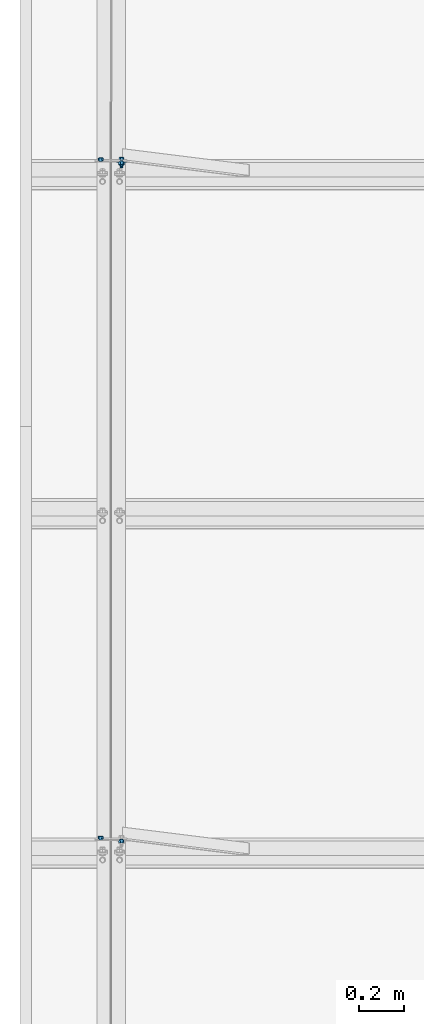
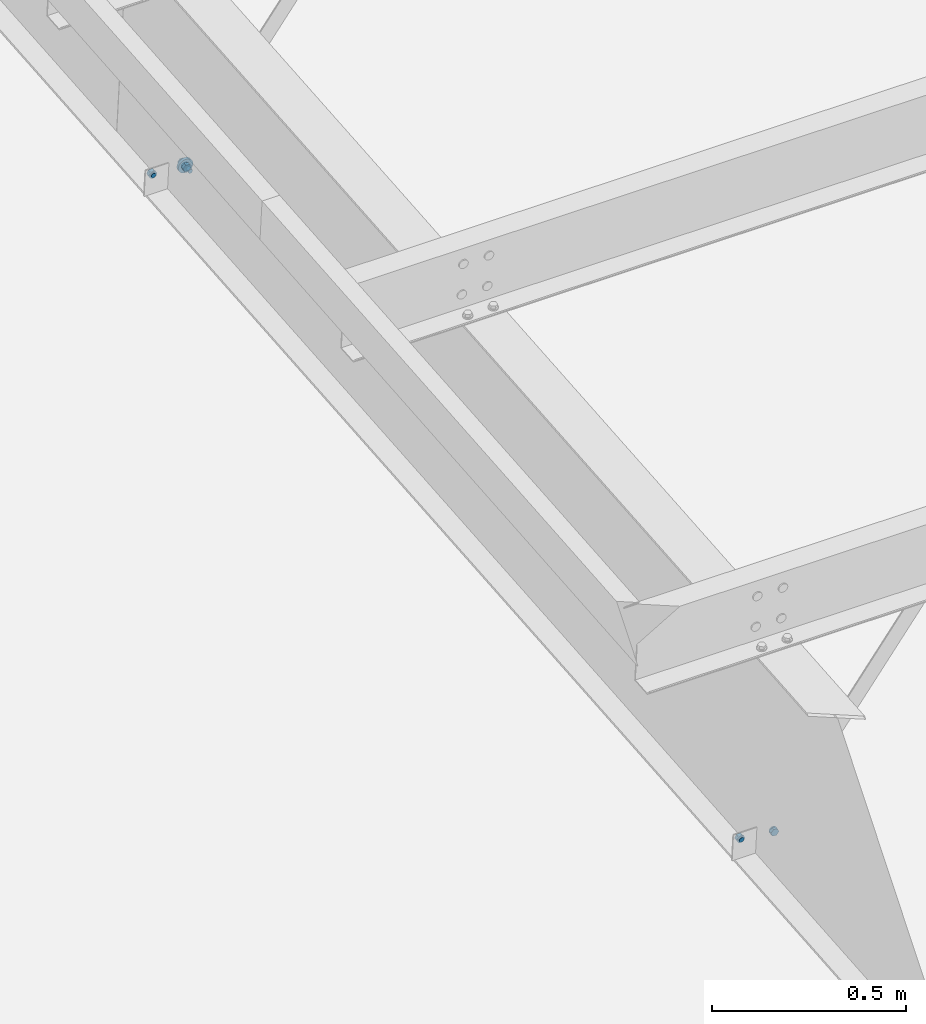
# One storey, part 128 of 185: 5 mechanical fasteners, 2 elements without a shape of their own.
"""IFC2X3 building model written with IfcOpenShell, lengths in millimetres."""

import ifcopenshell
import ifcopenshell.guid

model = None  # the IFC model being written
_history = None  # IfcOwnerHistory: only IFC2X3 demands one
_inside = {}  # id of a spatial element -> (the spatial element, [elements in it])
_under = {}  # id of a project, library or spatial element -> (it, [spatial elements below it])
_declared = {}  # id of a project -> (the project, [libraries it declares])
_typed = {}  # id of a type object -> (the type object, [elements of that type])
_made_of = {}  # id of a material, layer set ... -> (it, [elements and type objects made of it])


def new_model(schema):
    """Start an empty IFC model of exactly this schema.

    Asked for "IFC4X3", IfcOpenShell would pick the latest addendum, in which some entities
    have other attributes; the version numbers below select the first issue.
    IFC2X3 requires an IfcOwnerHistory on every rooted entity: one is made here for all.
    """
    global model, _history
    if schema == "IFC4X3":
        model = ifcopenshell.file(schema_version=(4, 3, 0, 0))
    else:
        model = ifcopenshell.file(schema=schema)
    _inside.clear()
    _under.clear()
    _declared.clear()
    _typed.clear()
    _made_of.clear()
    _history = None
    if model.schema == "IFC2X3":
        org = make("IfcOrganization", Name="unknown")
        user = make(
            "IfcPersonAndOrganization",
            ThePerson=make("IfcPerson", FamilyName="unknown"),
            TheOrganization=org,
        )
        app = make(
            "IfcApplication",
            ApplicationDeveloper=org,
            Version="unknown",
            ApplicationFullName="unknown",
            ApplicationIdentifier="unknown",
        )
        _history = make(
            "IfcOwnerHistory",
            OwningUser=user,
            OwningApplication=app,
            ChangeAction="ADDED",
            CreationDate=0,
        )
    return model


def make(cls, **values):
    """One entity of the class cls with the attributes given. An attribute that is None is left unset."""
    return model.create_entity(
        cls, **{name: value for name, value in values.items() if value is not None}
    )


def rooted(cls, **values):
    """An entity with a GlobalId (a new one), such as an element, a storey or a relation."""
    return make(cls, GlobalId=ifcopenshell.guid.new(), OwnerHistory=_history, **values)


def si_unit(unit_type, name, prefix=None):
    """IfcSIUnit, for example si_unit("LENGTHUNIT", "METRE", prefix="MILLI")."""
    return make("IfcSIUnit", UnitType=unit_type, Prefix=prefix, Name=name)


def assignment(units):
    """IfcUnitAssignment: the units of a project."""
    return None if units is None else make("IfcUnitAssignment", Units=units)


def point(xyz):
    """IfcCartesianPoint."""
    return None if xyz is None else make("IfcCartesianPoint", Coordinates=xyz)


def direction(xyz):
    """IfcDirection."""
    return None if xyz is None else make("IfcDirection", DirectionRatios=xyz)


def frame(location, z_axis=None, x_axis=None):
    """IfcAxis2Placement3D, a coordinate frame: its origin and axes. An axis left out is left unset."""
    return make(
        "IfcAxis2Placement3D",
        Location=point(location),
        Axis=direction(z_axis),
        RefDirection=direction(x_axis),
    )


def frame_2d(location, x_axis=None):
    """IfcAxis2Placement2D, a coordinate frame in the plane: its origin and x axis."""
    return make(
        "IfcAxis2Placement2D", Location=point(location), RefDirection=direction(x_axis)
    )


def origin_with_axes():
    """The frame at (0, 0, 0) with the z axis (0, 0, 1) and the x axis (1, 0, 0) written out."""
    return frame((0.0, 0.0, 0.0), z_axis=(0.0, 0.0, 1.0), x_axis=(1.0, 0.0, 0.0))


def origin_2d_with_axis():
    """The frame at (0, 0) in the plane with the x axis (1, 0) written out."""
    return frame_2d((0.0, 0.0), x_axis=(1.0, 0.0))


def place(relative_to, where):
    """IfcLocalPlacement: puts the frame where relative to a parent placement (None: the world)."""
    return make(
        "IfcLocalPlacement", PlacementRelTo=relative_to, RelativePlacement=where
    )


def context(
    kind, dimensions, precision=None, world=None, true_north=None, identifier=None
):
    """IfcGeometricRepresentationContext, for example the 3D "Model" context."""
    return make(
        "IfcGeometricRepresentationContext",
        ContextIdentifier=identifier,
        ContextType=kind,
        CoordinateSpaceDimension=dimensions,
        Precision=precision,
        WorldCoordinateSystem=world,
        TrueNorth=true_north,
    )


def subcontext(parent, identifier, kind, view, scale=None):
    """IfcGeometricRepresentationSubContext, for example "Body" below "Model"."""
    return make(
        "IfcGeometricRepresentationSubContext",
        ContextIdentifier=identifier,
        ContextType=kind,
        ParentContext=parent,
        TargetScale=scale,
        TargetView=view,
    )


def project(units=None, contexts=None):
    """IfcProject with its units and contexts."""
    return rooted(
        "IfcProject",
        Name="project",
        RepresentationContexts=contexts,
        UnitsInContext=assignment(units),
    )


def spatial(cls, under=None, at=None, **own):
    """A site, building, storey or space (cls), placed at a placement, below another one or the project."""
    s = rooted(cls, ObjectPlacement=at, **own)
    if under is not None:
        _under.setdefault(under.id(), (under, []))[1].append(s)
    return s


def polyline(points):
    """IfcPolyline through the points."""
    return make("IfcPolyline", Points=[point(p) for p in points])


def profile(cls, at=None, kind="AREA", **sizes):
    """A parametric profile (cls). Its sizes go by their IFC names, for example OverallWidth=200.0."""
    return make(cls, ProfileType=kind, Position=at, **sizes)


def circle(**sizes):
    """IfcCircleProfileDef."""
    return profile("IfcCircleProfileDef", **sizes)


def outline(outer, holes=None, kind="AREA"):
    """IfcArbitraryClosedProfileDef: a profile drawn as a closed curve; with holes, ...WithVoids."""
    if holes is None:
        return make("IfcArbitraryClosedProfileDef", ProfileType=kind, OuterCurve=outer)
    return make(
        "IfcArbitraryProfileDefWithVoids",
        ProfileType=kind,
        OuterCurve=outer,
        InnerCurves=holes,
    )


def extrude(swept, where, along, depth):
    """IfcExtrudedAreaSolid: the profile swept, set in the frame where, extruded along a direction by depth."""
    return make(
        "IfcExtrudedAreaSolid",
        SweptArea=swept,
        Position=where,
        ExtrudedDirection=direction(along),
        Depth=depth,
    )


def shape(context_of_items, identifier, shape_type, items):
    """IfcShapeRepresentation: the items that make up one representation, for example the "Body"."""
    return make(
        "IfcShapeRepresentation",
        ContextOfItems=context_of_items,
        RepresentationIdentifier=identifier,
        RepresentationType=shape_type,
        Items=items,
    )


def source(mapping_origin, context_of_items, identifier, shape_type, items):
    """IfcRepresentationMap: a shape defined once, which mapped items show again and again."""
    return make(
        "IfcRepresentationMap",
        MappingOrigin=mapping_origin,
        MappedRepresentation=shape(context_of_items, identifier, shape_type, items),
    )


def transform(
    local_origin,
    x_axis=None,
    y_axis=None,
    z_axis=None,
    scale=None,
    scale2=None,
    scale3=None,
    uniform=True,
):
    """IfcCartesianTransformationOperator3D, or its non-uniform kind. x_axis, y_axis, z_axis: its Axis1, 2, 3."""
    if uniform:
        return make(
            "IfcCartesianTransformationOperator3D",
            Axis1=direction(x_axis),
            Axis2=direction(y_axis),
            LocalOrigin=point(local_origin),
            Scale=scale,
            Axis3=direction(z_axis),
        )
    return make(
        "IfcCartesianTransformationOperator3DnonUniform",
        Axis1=direction(x_axis),
        Axis2=direction(y_axis),
        LocalOrigin=point(local_origin),
        Scale=scale,
        Axis3=direction(z_axis),
        Scale2=scale2,
        Scale3=scale3,
    )


def mapped(mapping_source, mapping_target):
    """IfcMappedItem: shows the shape of a source again, moved by a transform."""
    return make(
        "IfcMappedItem", MappingSource=mapping_source, MappingTarget=mapping_target
    )


def material(Name=None, Category=None):
    """IfcMaterial."""
    return make("IfcMaterial", Name=Name, Category=Category)


def made_of(thing, what):
    """Note that an element or type object is made of a material, layer set ...; save() writes the relation."""
    if what is not None:
        _made_of.setdefault(what.id(), (what, []))[1].append(thing)
    return thing


def type_object(cls, material=None, **own):
    """A type object (cls), such as IfcWallType, which elements share."""
    return made_of(rooted(cls, **own), material)


def element(
    cls,
    number,
    at=None,
    inside=None,
    cuts=None,
    type_object=None,
    material=None,
    context=None,
    identifier="Body",
    shape_type=None,
    held_by="IfcProductDefinitionShape",
    body=None,
    shapes=None,
    **own,
):
    """One element of the class cls, such as IfcWall. Its Tag is "e" and its number.

    at: its placement. inside: the storey or other place that contains it. cuts: it is an
    opening in that element (IfcRelVoidsElement). A single representation is given by context,
    identifier, shape_type and body (its items); several are given by shapes. held_by: the class
    of the entity that holds the representations. save() writes the other relations.
    """
    e = rooted(cls, Tag="e%d" % number, ObjectPlacement=at, **own)
    if body is not None:
        shapes = [shape(context, identifier, shape_type, body)]
    if shapes is not None:
        e.Representation = make(held_by, Representations=shapes)
    if inside is not None:
        _inside.setdefault(inside.id(), (inside, []))[1].append(e)
    if cuts is not None:
        rooted(
            "IfcRelVoidsElement", RelatingBuildingElement=cuts, RelatedOpeningElement=e
        )
    if type_object is not None:
        _typed.setdefault(type_object.id(), (type_object, []))[1].append(e)
    return made_of(e, material)


def aggregate(whole, parts):
    """IfcRelAggregates: a whole, such as a stair, and the parts it consists of."""
    return rooted("IfcRelAggregates", RelatingObject=whole, RelatedObjects=parts)


def save(model, path):
    """Write the relations noted so far, then the file.

    IfcRelAggregates (storeys below a building ...), IfcRelContainedInSpatialStructure (elements
    in a storey), IfcRelDefinesByType, IfcRelAssociatesMaterial and IfcRelDeclares: one each for
    every whole, place, type object, material and project.
    """
    for whole, parts in _under.values():
        aggregate(whole, parts)
    for where, things in _inside.values():
        rooted(
            "IfcRelContainedInSpatialStructure",
            RelatedElements=things,
            RelatingStructure=where,
        )
    for kind, things in _typed.values():
        rooted("IfcRelDefinesByType", RelatedObjects=things, RelatingType=kind)
    for what, things in _made_of.values():
        rooted("IfcRelAssociatesMaterial", RelatedObjects=things, RelatingMaterial=what)
    for by, libraries in _declared.values():
        rooted("IfcRelDeclares", RelatingContext=by, RelatedDefinitions=libraries)
    model.write(path)


model = new_model("IFC2X3")

# Units and contexts
model_context = context("Model", 3, precision=1e-05, world=origin_with_axes())
body_context = subcontext(model_context, "Body", "Model", "MODEL_VIEW")
ifc_project = project(units=[si_unit("LENGTHUNIT", "METRE", prefix="MILLI"), si_unit("AREAUNIT", "SQUARE_METRE"), si_unit("VOLUMEUNIT", "CUBIC_METRE"), si_unit("MASSUNIT", "GRAM", prefix="KILO"), si_unit("TIMEUNIT", "SECOND"), si_unit("PLANEANGLEUNIT", "RADIAN"), si_unit("SOLIDANGLEUNIT", "STERADIAN"), si_unit("THERMODYNAMICTEMPERATUREUNIT", "DEGREE_CELSIUS"), si_unit("LUMINOUSINTENSITYUNIT", "LUMEN")], contexts=[model_context])

# Site, building, storey
site_placement = place(None, origin_with_axes())
site = spatial("IfcSite", under=ifc_project, at=site_placement, Name="Undefined", CompositionType="ELEMENT")
building_placement = place(site_placement, origin_with_axes())
building = spatial("IfcBuilding", under=site, at=building_placement, Name="Undefined", CompositionType="ELEMENT")
storey_placement = place(building_placement, origin_with_axes())
storey = spatial("IfcBuildingStorey", under=building, at=storey_placement, Name="Undefined", CompositionType="ELEMENT", Elevation=0.0)

# Assembly, mechanical fastener
assembly_1_placement = place(storey_placement, origin_with_axes())
assembly_1 = element("IfcElementAssembly", 1, at=assembly_1_placement, inside=storey, Name="Steel Assembly", AssemblyPlace="NOTDEFINED", PredefinedType="RIGID_FRAME")
ifc_material_1 = material(Name="Undefined")
discrete_accessory_type = type_object("IfcDiscreteAccessoryType", Name="Bolt assembly")
shared_shape_1 = source(origin_with_axes(), body_context, "Body", "SweptSolid", [
    extrude(circle(Radius=7.14374971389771, at=origin_2d_with_axis()), frame((0.0, -1.59000001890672, 0.0), z_axis=(0.0, 1.0, 0.0), x_axis=(1.0, 0.0, 0.0)), (0.0, 0.0, 1.0), 1.7),
    extrude(outline(polyline([(10.9985221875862, 0.0), (5.4992610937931, 9.52499961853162), (-5.4992610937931, 9.52499961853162), (-10.9985221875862, 0.0), (-5.4992610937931, -9.52499961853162), (5.4992610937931, -9.52499961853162), (10.9985221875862, 0.0)])), frame((0.0, -15.0837496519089, 0.0), z_axis=(0.0, 1.0, 0.0), x_axis=(1.0, 0.0, 0.0)), (0.0, 0.0, 1.0), 9.5),
    extrude(circle(Radius=6.34999990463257, at=origin_2d_with_axis()), frame((0.0, -5.5587500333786, 0.0), z_axis=(0.0, 1.0, 0.0), x_axis=(1.0, 0.0, 0.0)), (0.0, 0.0, 1.0), 38.1),
    extrude(circle(Radius=13.4937496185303, at=origin_2d_with_axis()), frame((0.0, -5.5587500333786, 0.0), z_axis=(0.0, 1.0, 0.0), x_axis=(1.0, 0.0, 0.0)), (0.0, 0.0, 1.0), 4.0),
    extrude(circle(Radius=22.2250003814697, at=origin_2d_with_axis()), frame((0.0, 0.0, 0.0), z_axis=(0.0, 1.0, 0.0), x_axis=(1.0, 0.0, 0.0)), (0.0, 0.0, 1.0), 7.9),
    extrude(outline(polyline([(12.8316099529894, 0.0), (6.4158049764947, 11.1125001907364), (-6.4158049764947, 11.1125001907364), (-12.8316099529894, 0.0), (-6.4158049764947, -11.1125001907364), (6.4158049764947, -11.1125001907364), (12.8316099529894, 0.0)])), frame((0.0, 7.93750000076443, 0.0), z_axis=(0.0, 1.0, 0.0), x_axis=(1.0, 0.0, 0.0)), (0.0, 0.0, 1.0), 12.3),
])
mechanical_fastener_1_placement = place(assembly_1_placement, frame((453.111633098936, 11213.4313124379, 6167.88093925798), z_axis=(0.832860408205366, 0.0459642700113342, -0.551571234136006), x_axis=(0.553483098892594, -0.0691652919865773, 0.829983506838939)))
mechanical_fastener_1 = element("IfcMechanicalFastener", 2, at=mechanical_fastener_1_placement, type_object=discrete_accessory_type, material=ifc_material_1, Name="Bolt assembly", NominalDiameter=12.6999998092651, NominalLength=38.0999984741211, context=body_context, shape_type="MappedRepresentation", body=[
    mapped(shared_shape_1, transform((0.0, 0.0, 0.0))),
])
aggregate(assembly_1, [mechanical_fastener_1])

# Assembly, mechanical fasteners
assembly_2_placement = place(storey_placement, origin_with_axes())
assembly_2 = element("IfcElementAssembly", 3, at=assembly_2_placement, inside=storey, Name="Steel Assembly", AssemblyPlace="NOTDEFINED", PredefinedType="RIGID_FRAME")
ifc_material_2 = material(Name="7990")
shared_shape_2 = source(origin_with_axes(), body_context, "Body", "SweptSolid", [
    extrude(circle(Radius=7.14374971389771, at=origin_2d_with_axis()), frame((0.0, -3.41600000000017, 0.0), z_axis=(0.0, 1.0, 0.0), x_axis=(1.0, 0.0, 0.0)), (0.0, 0.0, 1.0), 3.5),
    extrude(circle(Radius=11.4299998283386, at=origin_2d_with_axis()), frame((0.0, 0.0, 0.0), z_axis=(0.0, 1.0, 0.0), x_axis=(1.0, 0.0, 0.0)), (0.0, 0.0, 1.0), 4.2),
    extrude(outline(polyline([(12.171698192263, 0.0), (6.08584909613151, 10.5409998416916), (-6.08584909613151, 10.5409998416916), (-12.171698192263, 0.0), (-6.08584909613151, -10.5409998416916), (6.08584909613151, -10.5409998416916), (12.171698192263, 0.0)])), frame((0.0, 4.1909999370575, 0.0), z_axis=(0.0, 1.0, 0.0), x_axis=(1.0, 0.0, 0.0)), (0.0, 0.0, 1.0), 8.4),
])
mechanical_fastener_2_placement = place(assembly_2_placement, frame((360.241850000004, 11213.5004777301, 6167.0509557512), z_axis=(0.921635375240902, 0.0322263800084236, -0.386716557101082), x_axis=(-0.388056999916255, 0.0765376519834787, -0.9184518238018)))
mechanical_fastener_2 = element("IfcMechanicalFastener", 4, at=mechanical_fastener_2_placement, type_object=discrete_accessory_type, material=ifc_material_2, Name="Bolt assembly", NominalDiameter=12.6999998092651, NominalLength=38.0999984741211, context=body_context, shape_type="MappedRepresentation", body=[
    mapped(shared_shape_2, transform((0.0, 0.0, 0.0))),
])
mechanical_fastener_3_placement = place(assembly_2_placement, frame((360.241850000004, 8176.02900660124, 5913.92833315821), z_axis=(0.921635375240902, 0.0322263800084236, -0.386716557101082), x_axis=(-0.388056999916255, 0.0765376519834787, -0.9184518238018)))
mechanical_fastener_3 = element("IfcMechanicalFastener", 5, at=mechanical_fastener_3_placement, type_object=discrete_accessory_type, material=ifc_material_2, Name="Bolt assembly", NominalDiameter=12.6999998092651, NominalLength=38.0999984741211, context=body_context, shape_type="MappedRepresentation", body=[
    mapped(shared_shape_2, transform((0.0, 0.0, 0.0))),
])
shared_shape_3 = source(origin_with_axes(), body_context, "Body", "SweptSolid", [
    extrude(circle(Radius=7.14374971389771, at=origin_2d_with_axis()), frame((0.0, 0.0, 0.0), z_axis=(0.0, 1.0, 0.0), x_axis=(1.0, 0.0, 0.0)), (0.0, 0.0, 1.0), 3.5),
    extrude(circle(Radius=11.4299998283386, at=origin_2d_with_axis()), frame((0.0, 3.41600000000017, 0.0), z_axis=(0.0, 1.0, 0.0), x_axis=(1.0, 0.0, 0.0)), (0.0, 0.0, 1.0), 4.2),
    extrude(outline(polyline([(12.171698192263, 0.0), (6.08584909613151, 10.5409998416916), (-6.08584909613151, 10.5409998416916), (-12.171698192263, 0.0), (-6.08584909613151, -10.5409998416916), (6.08584909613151, -10.5409998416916), (12.171698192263, 0.0)])), frame((0.0, 7.60699993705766, 0.0), z_axis=(0.0, 1.0, 0.0), x_axis=(1.0, 0.0, 0.0)), (0.0, 0.0, 1.0), 8.4),
])
mechanical_fastener_4_placement = place(assembly_2_placement, frame((452.558150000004, 11213.5004777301, 6167.0509557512), z_axis=(-0.921635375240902, 0.0322263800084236, -0.386716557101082), x_axis=(0.388056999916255, 0.0765376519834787, -0.9184518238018)))
mechanical_fastener_4 = element("IfcMechanicalFastener", 6, at=mechanical_fastener_4_placement, type_object=discrete_accessory_type, material=ifc_material_2, Name="Bolt assembly", NominalDiameter=12.6999998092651, NominalLength=38.0999984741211, context=body_context, shape_type="MappedRepresentation", body=[
    mapped(shared_shape_3, transform((0.0, 0.0, 0.0))),
])
mechanical_fastener_5_placement = place(assembly_2_placement, frame((452.558150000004, 8176.02900660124, 5913.92833315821), z_axis=(-0.921635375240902, 0.0322263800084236, -0.386716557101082), x_axis=(0.388056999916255, 0.0765376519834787, -0.9184518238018)))
mechanical_fastener_5 = element("IfcMechanicalFastener", 7, at=mechanical_fastener_5_placement, type_object=discrete_accessory_type, material=ifc_material_2, Name="Bolt assembly", NominalDiameter=12.6999998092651, NominalLength=38.0999984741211, context=body_context, shape_type="MappedRepresentation", body=[
    mapped(shared_shape_3, transform((0.0, 0.0, 0.0))),
])
aggregate(assembly_2, [mechanical_fastener_4, mechanical_fastener_2, mechanical_fastener_5, mechanical_fastener_3])

save(model, "model.ifc")
